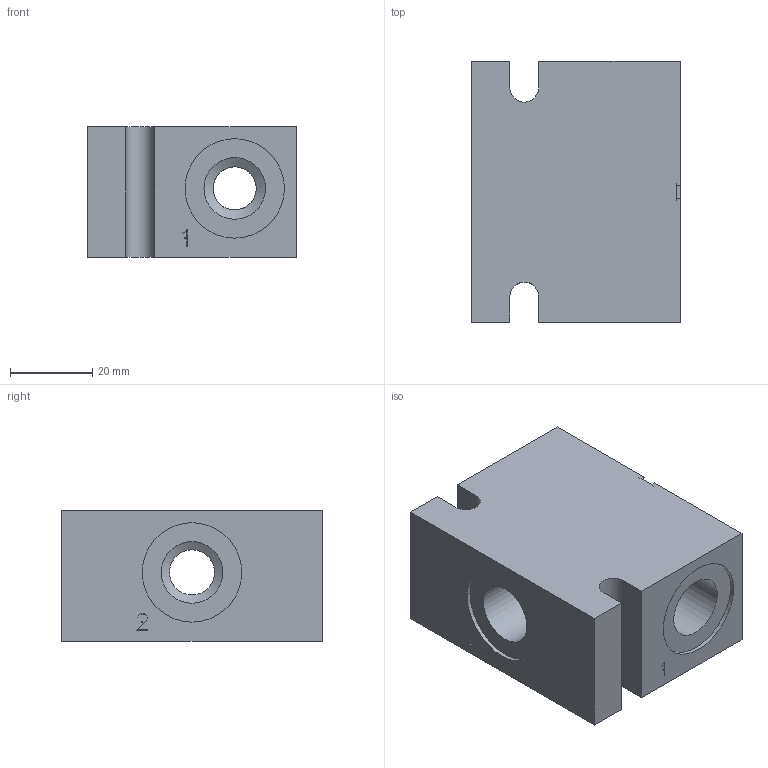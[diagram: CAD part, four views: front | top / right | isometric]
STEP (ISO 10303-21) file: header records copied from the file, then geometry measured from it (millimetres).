
FILE_DESCRIPTION( ( 'Unknown' ), '1' );
FILE_NAME( 'G:/Graphic Design/Graphic Design 2/Data Sheets/Delta Bodies/DRAWINGS/B-DPBB3.stp', 'Unknown', ( 'Unknown' ), ( 'Unknown' ), 'PSStep 16.0.42', 'Unknown', ' ' );
FILE_SCHEMA( ( 'AUTOMOTIVE_DESIGN { 1 0 10303 214 1 1 1 1 }' ) );
Length unit declared in the file: millimetre
Products named in the file (2): Assem1; B-DPBB3
Assembly tree (1 placements, depth 2):
  Assem1
    B-DPBB3
Bounding box: 50.8 x 63.5 x 31.75 mm (x, y, z)
Surface area: 18456.7 mm2 (no closed solid volume)
Topology: 0 solids, 96 shells, 96 faces, 472 edges, 448 vertices
Faces by surface type: plane 69, cylinder 21, cone 6
Full cylindrical faces by diameter (mm): 0.2 x3, 10.5 x2, 11 x1, 12.7 x1, 15 x6, 17.33 x2, 24.2 x3
Entity records: 5328 total; most frequent: CARTESIAN_POINT 1470, DIRECTION 516, ORIENTED_EDGE 434, EDGE_CURVE 434, VERTEX_POINT 434, B_SPLINE_CURVE_WITH_KNOTS 192, AXIS2_PLACEMENT_3D 176, LINE 164
